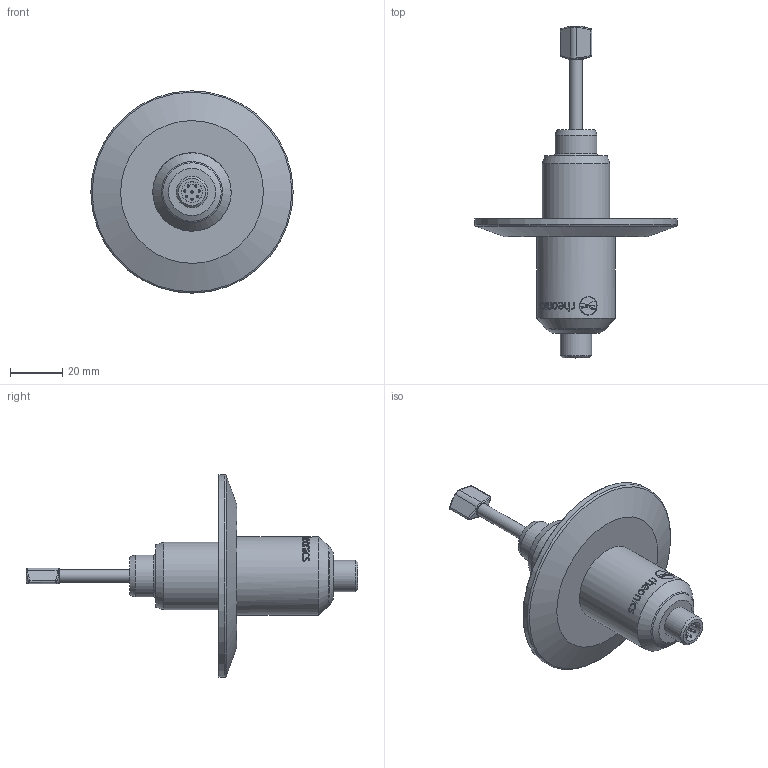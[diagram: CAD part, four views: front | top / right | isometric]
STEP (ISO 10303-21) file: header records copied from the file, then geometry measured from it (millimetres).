
FILE_DESCRIPTION(/* description */ ('Unknown'),/* implementation_level */ '2;1');
FILE_NAME(/* name */ 'SRD-X3-25T',/* time_stamp */ '2023-12-12T16:03:46-05:00',/* author */ ('Unknown'),/* organization */ ('Unknown'),/* preprocessor_version */ 'ST-DEVELOPER v16.7',/* originating_system */ 'Solid Edge',/* authorisation */ 'Unknown');
FILE_SCHEMA (('CONFIG_CONTROL_DESIGN'));
Length unit declared in the file: millimetre
Products named in the file (1): SRD-X3-25T
Bounding box: 77.5 x 127.15 x 77.5 mm (x, y, z)
Volume: 68271.9 mm3; surface area: 17647 mm2
Topology: 1 solids, 1 shells, 207 faces, 511 edges, 328 vertices
Faces by surface type: bspline 94, plane 42, cylinder 41, cone 12, torus 10, sphere 8
Full cylindrical faces by diameter (mm): 0.8 x8, 5 x1, 8 x1, 12 x1, 16 x1, 26 x1, 30 x1, 77.5 x1
Entity records: 10750 total; most frequent: CARTESIAN_POINT 5313, ORIENTED_EDGE 900, DIRECTION 562, EDGE_CURVE 450, VERTEX_POINT 306, EDGE_LOOP 268, FACE_BOUND 268, B_SPLINE_CURVE_WITH_KNOTS 215
